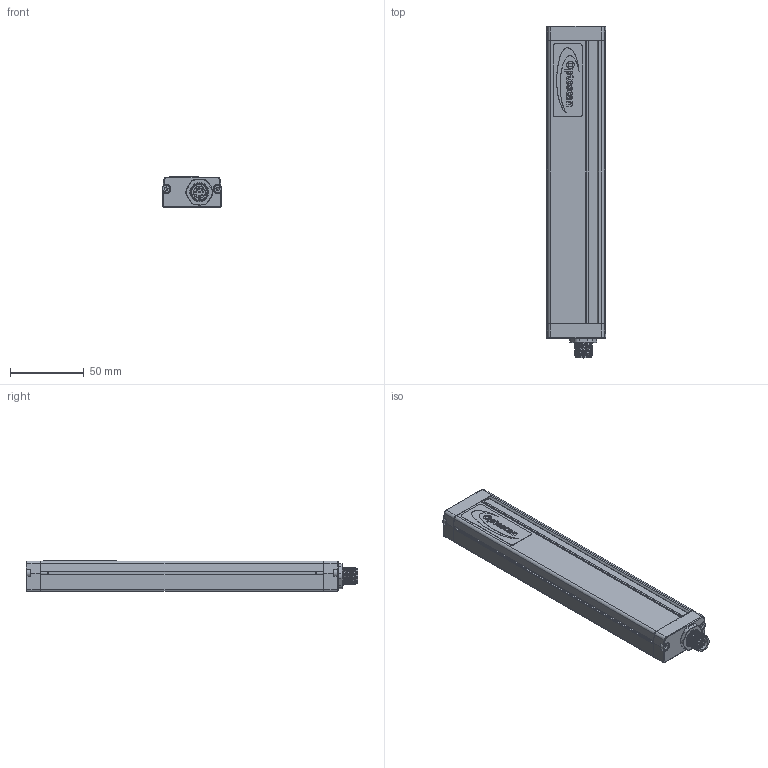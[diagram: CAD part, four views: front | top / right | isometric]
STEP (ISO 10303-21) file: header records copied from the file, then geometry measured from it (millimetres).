
FILE_DESCRIPTION(/* description */ (''),/* implementation_level */ '2;1');
FILE_NAME(/* name */ 'C:\Users\andre\SynologyDrive\Optoscan\Libreria Componenti\00 - Barriere\Polaris sorgente\Barriera Polaris RX\Polaris_190_RX.stp',/* time_stamp */ '2021-06-04T11:37:25+02:00',/* author */ ('andre'),/* organization */ (''),/* preprocessor_version */ 'ST-DEVELOPER v18',/* originating_system */ 'Autodesk Inventor 2020',/* authorisation */ '');
FILE_SCHEMA (('AUTOMOTIVE_DESIGN { 1 0 10303 214 3 1 1 }'));
Length unit declared in the file: millimetre
Products named in the file (1): Polaris_190_RX
Bounding box: 40.5 x 225.3 x 20.75 mm (x, y, z)
Volume: 48907.2 mm3; surface area: 59273.1 mm2
Topology: 1 solids, 1 shells, 700 faces, 1926 edges, 1237 vertices
Faces by surface type: plane 319, cylinder 199, bspline 94, torus 70, sphere 10, cone 8
Full cylindrical faces by diameter (mm): 1 x8, 2.459 x4, 2.5 x4, 3 x4, 3.5 x4, 5.5 x4, 8 x1, 10.5 x2, 11.75 x9, 15.7 x1, 17.5 x1
Entity records: 28472 total; most frequent: CARTESIAN_POINT 10246, ORIENTED_EDGE 3826, DIRECTION 3447, EDGE_CURVE 1913, VERTEX_POINT 1237, AXIS2_PLACEMENT_3D 1211, LINE 1025, VECTOR 1025
